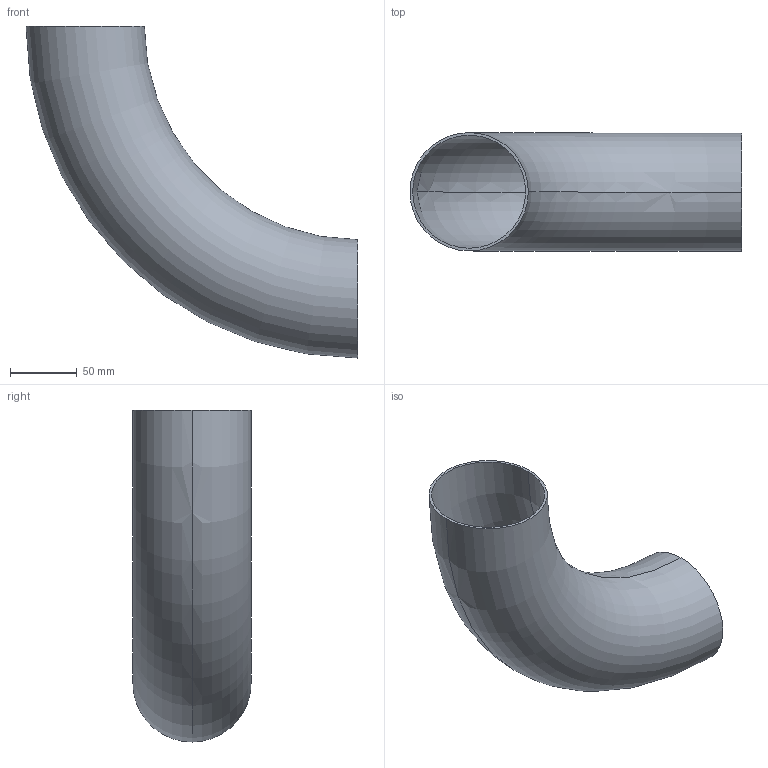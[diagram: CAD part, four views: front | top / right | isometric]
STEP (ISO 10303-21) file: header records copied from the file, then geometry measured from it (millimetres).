
FILE_DESCRIPTION (( 'STEP AP203' ), '1' );
FILE_NAME ('3D_R1655_88.9x2_17362280_17362620.STEP', '2024-08-05T09:17:35', ( '' ), ( '' ), 'SwSTEP 2.0', 'SolidWorks 2024', '' );
FILE_SCHEMA (( 'CONFIG_CONTROL_DESIGN' ));
Length unit declared in the file: millimetre
Products named in the file (1): 3D_R1655_88.9x2_17362280_17362620
Bounding box: 249.45 x 88.9 x 249.45 mm (x, y, z)
Volume: 175822.1 mm3; surface area: 176914.1 mm2
Topology: 1 solids, 1 shells, 6 faces, 12 edges, 8 vertices
Faces by surface type: torus 4, plane 2
Entity records: 249 total; most frequent: DIRECTION 38, CARTESIAN_POINT 27, ORIENTED_EDGE 24, AXIS2_PLACEMENT_3D 19, CIRCLE 12, EDGE_CURVE 12, VERTEX_POINT 8, PERSON_AND_ORGANIZATION 8
